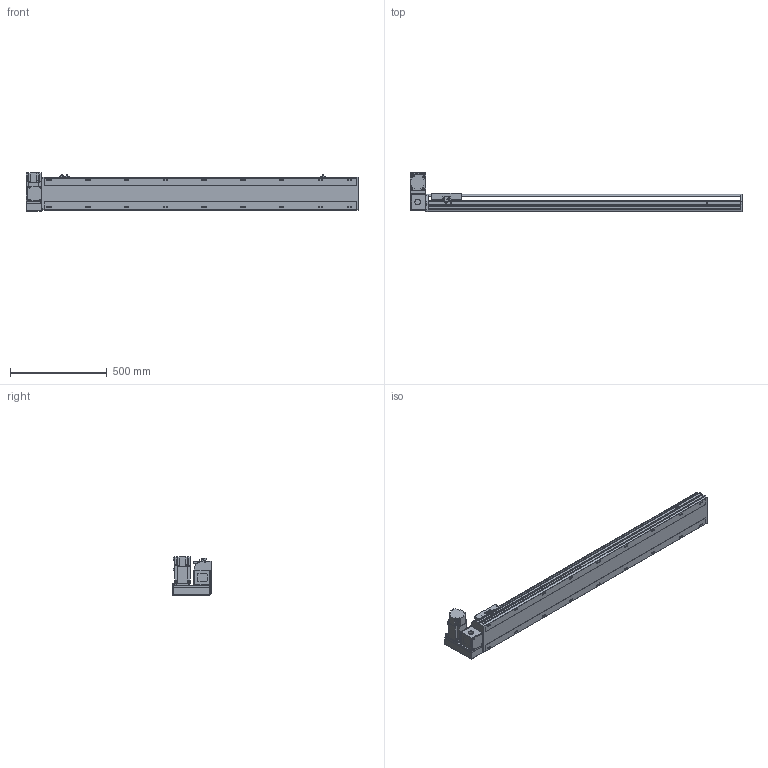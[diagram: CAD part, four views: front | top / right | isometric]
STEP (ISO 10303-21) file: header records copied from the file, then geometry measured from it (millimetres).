
FILE_DESCRIPTION(/* description */ ('STEP AP214'),/* implementation_level */ '2;1');
FILE_NAME(/* name */ 'PBS170-P40-S1350-LU-T75-C1-N(0)',/* time_stamp */ '2022-06-07T10:15:46+02:00',/* author */ ('License CC BY-ND 4.0'),/* organization */ ('CADENAS'),/* preprocessor_version */ 'ST-DEVELOPER v18.102',/* originating_system */ 'PARTsolutions',/* authorisation */ ' ');
FILE_SCHEMA (('AUTOMOTIVE_DESIGN {1 0 10303 214 3 1 1}'));
Length unit declared in the file: millimetre
Products named in the file (7): PBS170-P40-S1350-LU-T75-C1-N(0); PBS170_sensor; PBS170_plant; PBS170_sliser; T75-p1; PBS170T-LU_motors; PBS170-S1350()_body
Assembly tree (8 placements, depth 2):
  PBS170-P40-S1350-LU-T75-C1-N(0)
    PBS170_sensor  x3
    PBS170_plant
    PBS170_sliser
    T75-p1
    PBS170T-LU_motors
    PBS170-S1350()_body
Bounding box: 1713 x 206 x 197.3 mm (x, y, z)
Volume: 13484858.9 mm3; surface area: 1740827.6 mm2
Topology: 8 solids, 8 shells, 1098 faces, 2915 edges, 1900 vertices
Faces by surface type: plane 693, cylinder 347, cone 48, sphere 8, torus 2
Full cylindrical faces by diameter (mm): 3.242 x4, 4 x2, 4.4 x4, 4.5 x6, 4.917 x4, 6 x9, 6.647 x26, 7 x2, 7.5 x4, 8 x8, 8.5 x18, 10 x4, 10.5 x18, 11 x2, 30 x2, 40 x1, 70 x1
Entity records: 31576 total; most frequent: CARTESIAN_POINT 5825, DIRECTION 5370, ORIENTED_EDGE 5088, EDGE_CURVE 2544, AXIS2_PLACEMENT_3D 1867, VERTEX_POINT 1754, LINE 1636, VECTOR 1636
